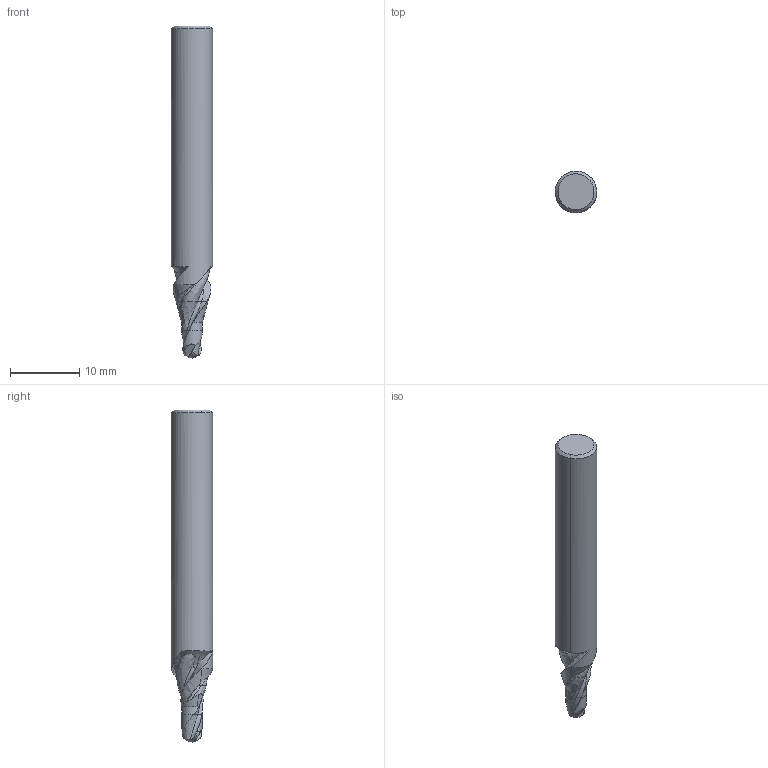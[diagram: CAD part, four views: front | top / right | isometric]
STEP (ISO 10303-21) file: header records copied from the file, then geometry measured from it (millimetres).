
FILE_DESCRIPTION(('CATIA V5 STEP','CAx-IF Rec.Pracs.--- Model Styling and Organization---1.2---2011-12-15'),'2;1');
FILE_NAME('I:\isr\design\admin8\users\weaam_s\5651194D.stp','2018-06-27T09:46:36+00:00',('none'),('none'),'CATIA Version 5 Release 21 SP 5 (IN-10)','CATIA V5 STEP AP214','none');
FILE_SCHEMA(('AUTOMOTIVE_DESIGN { 1 0 10303 214 1 1 1 1 }'));
Length unit declared in the file: millimetre
Products named in the file (1): EB-A2 03-04C06E48
Bounding box: 6 x 6 x 48 mm (x, y, z)
Volume: 1129.4 mm3; surface area: 889.8 mm2
Topology: 2 solids, 2 shells, 67 faces, 177 edges, 112 vertices
Faces by surface type: bspline 32, cylinder 12, cone 8, plane 7, torus 4, sphere 4
Entity records: 3522 total; most frequent: CARTESIAN_POINT 2177, ORIENTED_EDGE 340, EDGE_CURVE 170, VERTEX_POINT 107, DIRECTION 104, B_SPLINE_CURVE_WITH_KNOTS 104, ADVANCED_FACE 67, OVER_RIDING_STYLED_ITEM 67
